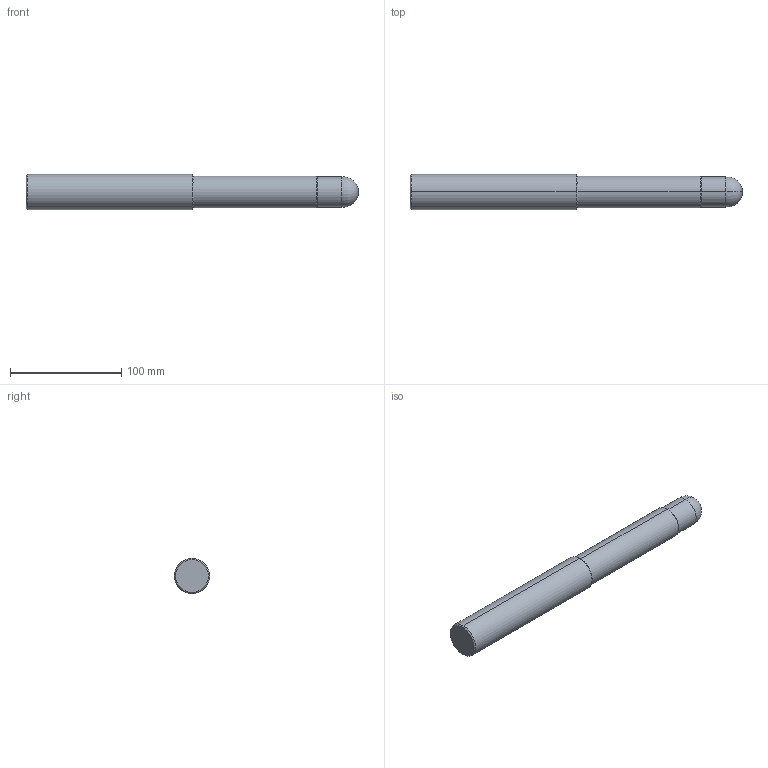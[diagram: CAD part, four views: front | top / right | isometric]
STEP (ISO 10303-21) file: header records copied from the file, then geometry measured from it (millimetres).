
FILE_DESCRIPTION (( 'STEP AP214' ), '1' );
FILE_NAME ('01-0237.STEP', '2021-02-10T00:15:05', ( 'USER' ), ( '' ), 'SwSTEP 2.0', 'SolidWorks 2018', '' );
FILE_SCHEMA (( 'AUTOMOTIVE_DESIGN' ));
Length unit declared in the file: millimetre
Products named in the file (2): 01-0237
Bounding box: 298.4 x 31.75 x 31.75 mm (x, y, z)
Volume: 209845.1 mm3; surface area: 29013.2 mm2
Topology: 1 solids, 1 shells, 16 faces, 30 edges, 16 vertices
Faces by surface type: cone 6, cylinder 6, torus 2, plane 2
Entity records: 445 total; most frequent: DIRECTION 84, CARTESIAN_POINT 64, ORIENTED_EDGE 60, AXIS2_PLACEMENT_3D 36, EDGE_CURVE 30, CIRCLE 18, ADVANCED_FACE 16, VERTEX_POINT 16
